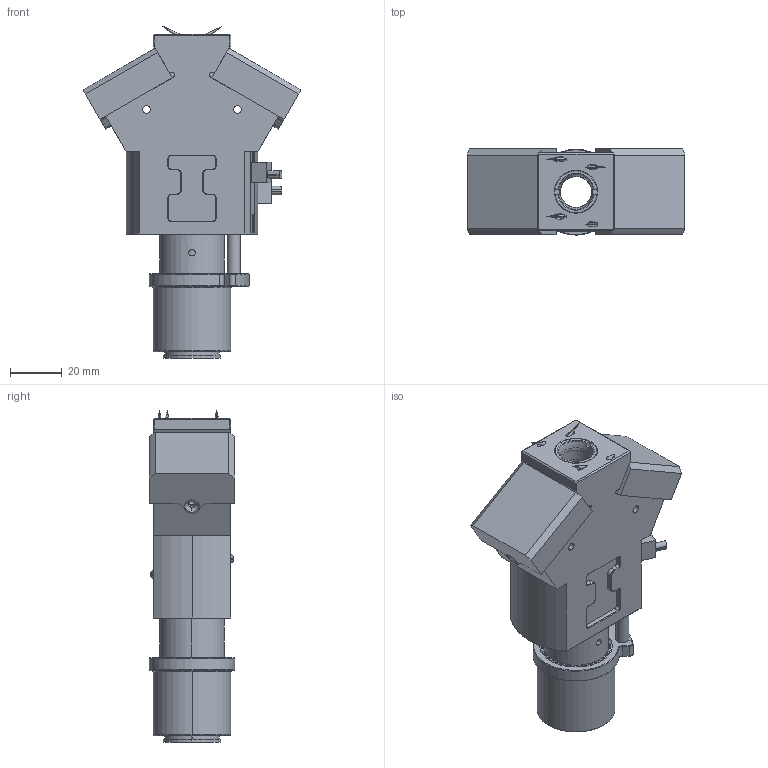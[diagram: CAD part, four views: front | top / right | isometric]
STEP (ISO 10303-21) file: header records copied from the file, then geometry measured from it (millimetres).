
FILE_DESCRIPTION (( 'STEP AP203' ), '1' );
FILE_NAME ('GN3003-4缓冲针夹.STEP', '2023-12-27T08:59:21', ( '微软用户' ), ( '微软中国' ), 'SwSTEP 2.0', 'SolidWorks 2018', '' );
FILE_SCHEMA (( 'CONFIG_CONTROL_DESIGN' ));
Length unit declared in the file: millimetre
Products named in the file (1): GN3003-4遣喳渀標
Bounding box: 83.78 x 33 x 127.71 mm (x, y, z)
Volume: 99097.8 mm3; surface area: 71312.1 mm2
Topology: 8 solids, 8 shells, 902 faces, 2234 edges, 1373 vertices
Faces by surface type: plane 400, cylinder 317, cone 147, torus 28, sphere 8, bspline 2
Entity records: 27111 total; most frequent: CARTESIAN_POINT 5907, DIRECTION 4444, ORIENTED_EDGE 4400, EDGE_CURVE 2200, AXIS2_PLACEMENT_3D 1728, VERTEX_POINT 1367, EDGE_LOOP 1005, VECTOR 988
